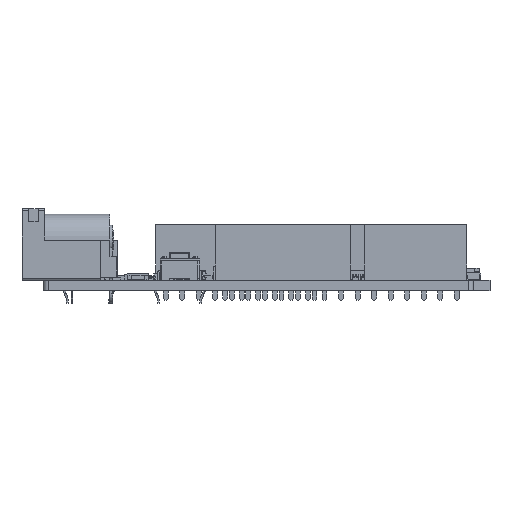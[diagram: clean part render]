
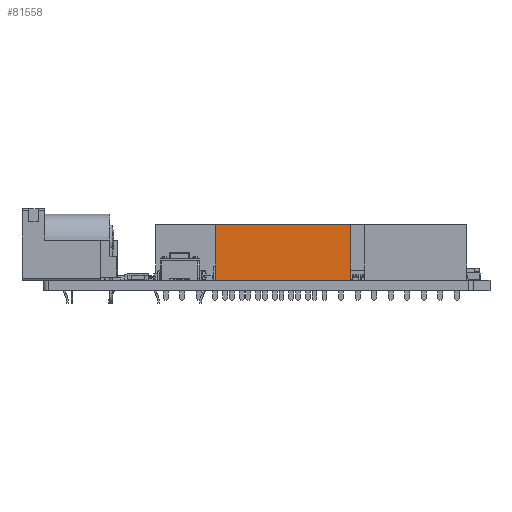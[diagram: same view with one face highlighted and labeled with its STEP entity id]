
A CAD part, front view. The second image highlights one B-rep face of the part: STEP entity #81558.
In plain terms, the highlighted planar face has unit normal (0, -1, 0).
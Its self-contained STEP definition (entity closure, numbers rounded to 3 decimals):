
#81558 = ADVANCED_FACE('',(#81559),#81593,.T.);
#81559 = FACE_BOUND('',#81560,.T.);
#81560 = EDGE_LOOP('',(#81561,#81571,#81579,#81587));
#81561 = ORIENTED_EDGE('',*,*,#81562,.T.);
#81562 = EDGE_CURVE('',#81563,#81565,#81567,.T.);
#81563 = VERTEX_POINT('',#81564);
#81564 = CARTESIAN_POINT('',(10.41,-1.25,4.25));
#81565 = VERTEX_POINT('',#81566);
#81566 = CARTESIAN_POINT('',(-10.41,-1.25,4.25));
#81567 = LINE('',#81568,#81569);
#81568 = CARTESIAN_POINT('',(10.41,-1.25,4.25));
#81569 = VECTOR('',#81570,1.);
#81570 = DIRECTION('',(-1.,0.,0.));
#81571 = ORIENTED_EDGE('',*,*,#81572,.T.);
#81572 = EDGE_CURVE('',#81565,#81573,#81575,.T.);
#81573 = VERTEX_POINT('',#81574);
#81574 = CARTESIAN_POINT('',(-10.41,-1.25,-4.25));
#81575 = LINE('',#81576,#81577);
#81576 = CARTESIAN_POINT('',(-10.41,-1.25,4.25));
#81577 = VECTOR('',#81578,1.);
#81578 = DIRECTION('',(0.,0.,-1.));
#81579 = ORIENTED_EDGE('',*,*,#81580,.T.);
#81580 = EDGE_CURVE('',#81573,#81581,#81583,.T.);
#81581 = VERTEX_POINT('',#81582);
#81582 = CARTESIAN_POINT('',(10.41,-1.25,-4.25));
#81583 = LINE('',#81584,#81585);
#81584 = CARTESIAN_POINT('',(-10.41,-1.25,-4.25));
#81585 = VECTOR('',#81586,1.);
#81586 = DIRECTION('',(1.,0.,0.));
#81587 = ORIENTED_EDGE('',*,*,#81588,.T.);
#81588 = EDGE_CURVE('',#81581,#81563,#81589,.T.);
#81589 = LINE('',#81590,#81591);
#81590 = CARTESIAN_POINT('',(10.41,-1.25,-4.25));
#81591 = VECTOR('',#81592,1.);
#81592 = DIRECTION('',(0.,0.,1.));
#81593 = PLANE('',#81594);
#81594 = AXIS2_PLACEMENT_3D('',#81595,#81596,#81597);
#81595 = CARTESIAN_POINT('',(0.,-1.25,0.));
#81596 = DIRECTION('',(0.,-1.,0.));
#81597 = DIRECTION('',(0.,0.,-1.));
